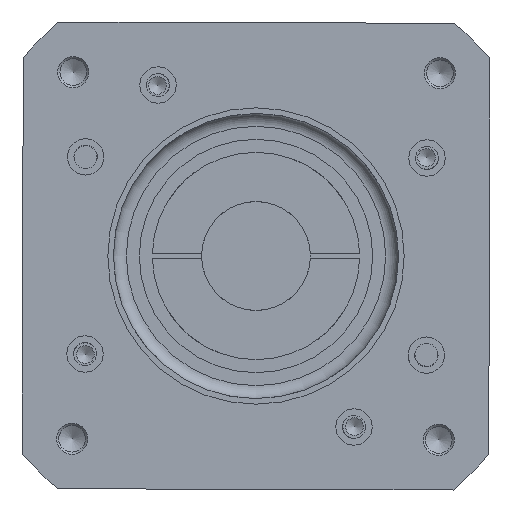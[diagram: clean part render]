
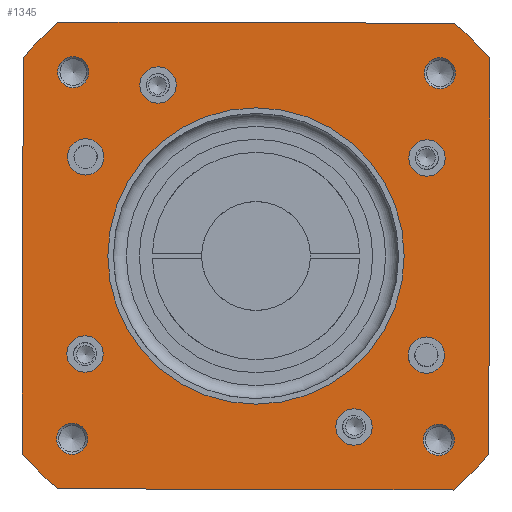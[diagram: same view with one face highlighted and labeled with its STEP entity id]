
A CAD part, left-side view. The second image highlights one B-rep face of the part: STEP entity #1345.
In plain terms, the highlighted planar face has unit normal (-1, 0, 0).
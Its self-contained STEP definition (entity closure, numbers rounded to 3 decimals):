
#370=FACE_BOUND('',#1804,.T.);
#371=FACE_BOUND('',#1805,.T.);
#372=FACE_BOUND('',#1806,.T.);
#373=FACE_BOUND('',#1807,.T.);
#374=FACE_BOUND('',#1808,.T.);
#375=FACE_BOUND('',#1809,.T.);
#376=FACE_BOUND('',#1810,.T.);
#377=FACE_BOUND('',#1811,.T.);
#378=FACE_BOUND('',#1812,.T.);
#379=FACE_BOUND('',#1813,.T.);
#380=FACE_BOUND('',#1814,.T.);
#381=FACE_BOUND('',#1815,.T.);
#1174=PLANE('',#3906);
#1345=ADVANCED_FACE('',(#370,#371,#372,#373,#374,#375,#376,#377,#378,#379,
#380,#381),#1174,.T.);
#1804=EDGE_LOOP('',(#2569));
#1805=EDGE_LOOP('',(#2570));
#1806=EDGE_LOOP('',(#2571));
#1807=EDGE_LOOP('',(#2572));
#1808=EDGE_LOOP('',(#2573));
#1809=EDGE_LOOP('',(#2574));
#1810=EDGE_LOOP('',(#2575));
#1811=EDGE_LOOP('',(#2576));
#1812=EDGE_LOOP('',(#2577));
#1813=EDGE_LOOP('',(#2578));
#1814=EDGE_LOOP('',(#2579));
#1815=EDGE_LOOP('',(#2580,#2581,#2582,#2583,#2584,#2585,#2586,#2587));
#1975=LINE('',#5542,#2089);
#1976=LINE('',#5546,#2090);
#1977=LINE('',#5550,#2091);
#1978=LINE('',#5554,#2092);
#2089=VECTOR('',#4689,1.);
#2090=VECTOR('',#4692,1.);
#2091=VECTOR('',#4695,1.);
#2092=VECTOR('',#4698,1.);
#2569=ORIENTED_EDGE('',*,*,#3289,.T.);
#2570=ORIENTED_EDGE('',*,*,#3290,.T.);
#2571=ORIENTED_EDGE('',*,*,#3291,.T.);
#2572=ORIENTED_EDGE('',*,*,#3292,.T.);
#2573=ORIENTED_EDGE('',*,*,#3287,.F.);
#2574=ORIENTED_EDGE('',*,*,#3284,.F.);
#2575=ORIENTED_EDGE('',*,*,#3281,.F.);
#2576=ORIENTED_EDGE('',*,*,#3278,.F.);
#2577=ORIENTED_EDGE('',*,*,#3275,.F.);
#2578=ORIENTED_EDGE('',*,*,#3272,.F.);
#2579=ORIENTED_EDGE('',*,*,#3269,.F.);
#2580=ORIENTED_EDGE('',*,*,#3293,.T.);
#2581=ORIENTED_EDGE('',*,*,#3294,.T.);
#2582=ORIENTED_EDGE('',*,*,#3295,.T.);
#2583=ORIENTED_EDGE('',*,*,#3296,.T.);
#2584=ORIENTED_EDGE('',*,*,#3297,.T.);
#2585=ORIENTED_EDGE('',*,*,#3298,.T.);
#2586=ORIENTED_EDGE('',*,*,#3299,.T.);
#2587=ORIENTED_EDGE('',*,*,#3300,.T.);
#2965=VERTEX_POINT('',#5472);
#2968=VERTEX_POINT('',#5480);
#2971=VERTEX_POINT('',#5489);
#2974=VERTEX_POINT('',#5498);
#2977=VERTEX_POINT('',#5507);
#2980=VERTEX_POINT('',#5516);
#2983=VERTEX_POINT('',#5525);
#2985=VERTEX_POINT('',#5532);
#2986=VERTEX_POINT('',#5534);
#2987=VERTEX_POINT('',#5536);
#2988=VERTEX_POINT('',#5538);
#2989=VERTEX_POINT('',#5540);
#2990=VERTEX_POINT('',#5541);
#2991=VERTEX_POINT('',#5543);
#2992=VERTEX_POINT('',#5545);
#2993=VERTEX_POINT('',#5547);
#2994=VERTEX_POINT('',#5549);
#2995=VERTEX_POINT('',#5551);
#2996=VERTEX_POINT('',#5553);
#3269=EDGE_CURVE('',#2965,#2965,#3525,.T.);
#3272=EDGE_CURVE('',#2968,#2968,#3528,.T.);
#3275=EDGE_CURVE('',#2971,#2971,#3531,.T.);
#3278=EDGE_CURVE('',#2974,#2974,#3534,.T.);
#3281=EDGE_CURVE('',#2977,#2977,#3537,.T.);
#3284=EDGE_CURVE('',#2980,#2980,#3540,.T.);
#3287=EDGE_CURVE('',#2983,#2983,#3543,.T.);
#3289=EDGE_CURVE('',#2985,#2985,#3545,.T.);
#3290=EDGE_CURVE('',#2986,#2986,#3546,.T.);
#3291=EDGE_CURVE('',#2987,#2987,#3547,.T.);
#3292=EDGE_CURVE('',#2988,#2988,#3548,.T.);
#3293=EDGE_CURVE('',#2989,#2990,#3549,.T.);
#3294=EDGE_CURVE('',#2990,#2991,#1975,.T.);
#3295=EDGE_CURVE('',#2991,#2992,#3550,.T.);
#3296=EDGE_CURVE('',#2992,#2993,#1976,.T.);
#3297=EDGE_CURVE('',#2993,#2994,#3551,.T.);
#3298=EDGE_CURVE('',#2994,#2995,#1977,.T.);
#3299=EDGE_CURVE('',#2995,#2996,#3552,.T.);
#3300=EDGE_CURVE('',#2996,#2989,#1978,.T.);
#3525=CIRCLE('',#3858,57.15);
#3528=CIRCLE('',#3863,7.);
#3531=CIRCLE('',#3869,7.);
#3534=CIRCLE('',#3875,7.);
#3537=CIRCLE('',#3881,7.);
#3540=CIRCLE('',#3887,7.);
#3543=CIRCLE('',#3893,7.);
#3545=CIRCLE('',#3898,6.);
#3546=CIRCLE('',#3899,6.);
#3547=CIRCLE('',#3900,6.);
#3548=CIRCLE('',#3901,6.);
#3549=CIRCLE('',#3902,118.);
#3550=CIRCLE('',#3903,118.);
#3551=CIRCLE('',#3904,118.);
#3552=CIRCLE('',#3905,118.);
#3858=AXIS2_PLACEMENT_3D('',#5471,#4599,#4600);
#3863=AXIS2_PLACEMENT_3D('',#5479,#4609,#4610);
#3869=AXIS2_PLACEMENT_3D('',#5488,#4621,#4622);
#3875=AXIS2_PLACEMENT_3D('',#5497,#4633,#4634);
#3881=AXIS2_PLACEMENT_3D('',#5506,#4645,#4646);
#3887=AXIS2_PLACEMENT_3D('',#5515,#4657,#4658);
#3893=AXIS2_PLACEMENT_3D('',#5524,#4669,#4670);
#3898=AXIS2_PLACEMENT_3D('',#5531,#4679,#4680);
#3899=AXIS2_PLACEMENT_3D('',#5533,#4681,#4682);
#3900=AXIS2_PLACEMENT_3D('',#5535,#4683,#4684);
#3901=AXIS2_PLACEMENT_3D('',#5537,#4685,#4686);
#3902=AXIS2_PLACEMENT_3D('',#5539,#4687,#4688);
#3903=AXIS2_PLACEMENT_3D('',#5544,#4690,#4691);
#3904=AXIS2_PLACEMENT_3D('',#5548,#4693,#4694);
#3905=AXIS2_PLACEMENT_3D('',#5552,#4696,#4697);
#3906=AXIS2_PLACEMENT_3D('',#5555,#4699,#4700);
#4599=DIRECTION('',(-1.,0.,0.));
#4600=DIRECTION('',(0.,0.003,-1.));
#4609=DIRECTION('',(-1.,0.,0.));
#4610=DIRECTION('',(0.,0.003,-1.));
#4621=DIRECTION('',(-1.,0.,0.));
#4622=DIRECTION('',(0.,1.,0.003));
#4633=DIRECTION('',(-1.,0.,0.));
#4634=DIRECTION('',(0.,-0.003,1.));
#4645=DIRECTION('',(-1.,0.,0.));
#4646=DIRECTION('',(0.,-1.,-0.003));
#4657=DIRECTION('',(-1.,0.,0.));
#4658=DIRECTION('',(0.,-0.497,-0.868));
#4669=DIRECTION('',(-1.,0.,0.));
#4670=DIRECTION('',(0.,0.497,0.868));
#4679=DIRECTION('',(1.,0.,0.));
#4680=DIRECTION('',(0.,0.,1.));
#4681=DIRECTION('',(1.,0.,0.));
#4682=DIRECTION('',(0.,0.,1.));
#4683=DIRECTION('',(1.,0.,0.));
#4684=DIRECTION('',(0.,0.,1.));
#4685=DIRECTION('',(1.,0.,0.));
#4686=DIRECTION('',(0.,0.,1.));
#4687=DIRECTION('',(-1.,0.,0.));
#4688=DIRECTION('',(0.,0.003,-1.));
#4689=DIRECTION('',(0.,-1.,-0.003));
#4690=DIRECTION('',(-1.,0.,0.));
#4691=DIRECTION('',(0.,0.003,-1.));
#4692=DIRECTION('',(0.,-0.003,1.));
#4693=DIRECTION('',(-1.,0.,0.));
#4694=DIRECTION('',(0.,0.003,-1.));
#4695=DIRECTION('',(0.,1.,0.003));
#4696=DIRECTION('',(-1.,0.,0.));
#4697=DIRECTION('',(0.,0.003,-1.));
#4698=DIRECTION('',(0.,0.003,-1.));
#4699=DIRECTION('',(-1.,0.,0.));
#4700=DIRECTION('',(0.,-0.003,1.));
#5471=CARTESIAN_POINT('',(-281.258,-2.626,36.305));
#5472=CARTESIAN_POINT('',(-281.258,-2.44,-20.845));
#5479=CARTESIAN_POINT('',(-281.258,-40.411,-29.636));
#5480=CARTESIAN_POINT('',(-281.258,-40.389,-36.636));
#5488=CARTESIAN_POINT('',(-281.258,63.315,-1.48));
#5489=CARTESIAN_POINT('',(-281.258,70.315,-1.457));
#5497=CARTESIAN_POINT('',(-281.258,35.159,102.247));
#5498=CARTESIAN_POINT('',(-281.258,35.136,109.247));
#5506=CARTESIAN_POINT('',(-281.258,-68.568,74.09));
#5507=CARTESIAN_POINT('',(-281.258,-75.568,74.068));
#5515=CARTESIAN_POINT('',(-281.258,-68.32,-1.909));
#5516=CARTESIAN_POINT('',(-281.258,-71.8,-7.983));
#5524=CARTESIAN_POINT('',(-281.258,63.068,74.52));
#5525=CARTESIAN_POINT('',(-281.258,66.548,80.593));
#5531=CARTESIAN_POINT('',(-281.258,-73.567,106.785));
#5532=CARTESIAN_POINT('',(-281.258,-73.567,112.785));
#5533=CARTESIAN_POINT('',(-281.258,67.854,107.246));
#5534=CARTESIAN_POINT('',(-281.258,67.854,113.246));
#5535=CARTESIAN_POINT('',(-281.258,68.315,-34.175));
#5536=CARTESIAN_POINT('',(-281.258,68.315,-28.175));
#5537=CARTESIAN_POINT('',(-281.258,-73.106,-34.636));
#5538=CARTESIAN_POINT('',(-281.258,-73.106,-28.636));
#5539=CARTESIAN_POINT('',(-281.258,-2.626,36.305));
#5540=CARTESIAN_POINT('',(-281.258,87.622,-39.716));
#5541=CARTESIAN_POINT('',(-281.258,73.982,-53.446));
#5542=CARTESIAN_POINT('',(-281.258,-92.332,-53.988));
#5543=CARTESIAN_POINT('',(-281.258,-78.647,-53.943));
#5544=CARTESIAN_POINT('',(-281.258,-2.626,36.305));
#5545=CARTESIAN_POINT('',(-281.258,-92.377,-40.303));
#5546=CARTESIAN_POINT('',(-281.258,-92.919,126.011));
#5547=CARTESIAN_POINT('',(-281.258,-92.875,112.326));
#5548=CARTESIAN_POINT('',(-281.258,-2.626,36.305));
#5549=CARTESIAN_POINT('',(-281.258,-79.234,126.056));
#5550=CARTESIAN_POINT('',(-281.258,-92.919,126.011));
#5551=CARTESIAN_POINT('',(-281.258,73.395,126.553));
#5552=CARTESIAN_POINT('',(-281.258,-2.626,36.305));
#5553=CARTESIAN_POINT('',(-281.258,87.125,112.913));
#5554=CARTESIAN_POINT('',(-281.258,87.08,126.598));
#5555=CARTESIAN_POINT('',(-281.258,-2.626,36.305));
